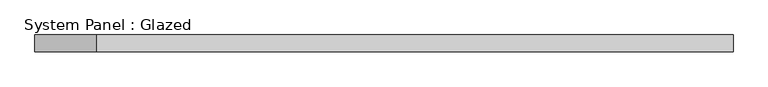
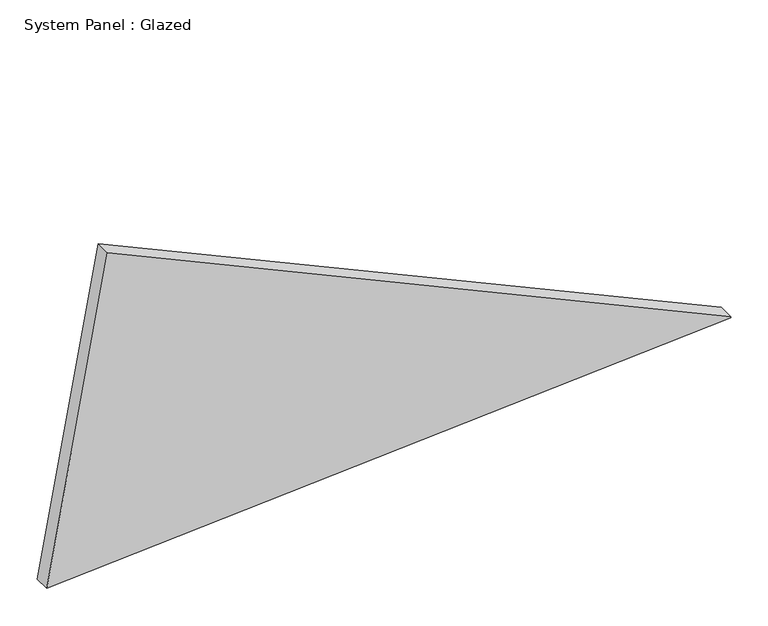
"""IFC4 building model written with IfcOpenShell, lengths in millimetres: plate geometry, System Panel : Glazed."""

from ifc_helpers import new_model, si_unit, frame, origin, place, context, project, spatial, polyline, outline, extrude, source, transform, mapped, element, save


def system_panel_glazed_17d389aa(model_context):
    return source(origin(), model_context, "Body", "SweptSolid", [
        extrude(outline(polyline([(0.0, -530.9970505), (72.9240908, 530.7713152), (74.1608954, 530.9970505), (517.4655597, -436.5518941), (0.0, -530.9970505)])), frame((0.0, -44.45, 0.0), z_axis=(0.0, 1.0, 0.0), x_axis=(0.0, 0.0, 1.0)), (0.0, 0.0, 1.0), 25.4),
    ])


if __name__ == "__main__":
    model = new_model("IFC4")
    model_context = context("Model", 3, world=origin())
    ifc_project = project(units=[si_unit("LENGTHUNIT", "METRE", prefix="MILLI")], contexts=[model_context])
    site = spatial("IfcSite", under=ifc_project)
    building = spatial("IfcBuilding", under=site)
    placement = place(None, origin())
    system_panel_glazed_shape = system_panel_glazed_17d389aa(model_context)
    element("IfcPlate", 1, ObjectType="System Panel : Glazed", at=placement, inside=building, context=model_context, shape_type="MappedRepresentation", body=[
        mapped(system_panel_glazed_shape, transform((0.0, 0.0, 0.0), x_axis=(1.0, 0.0, 0.0), y_axis=(0.0, 1.0, 0.0), z_axis=(0.0, 0.0, 1.0))),
    ])
    save(model, "model.ifc")
